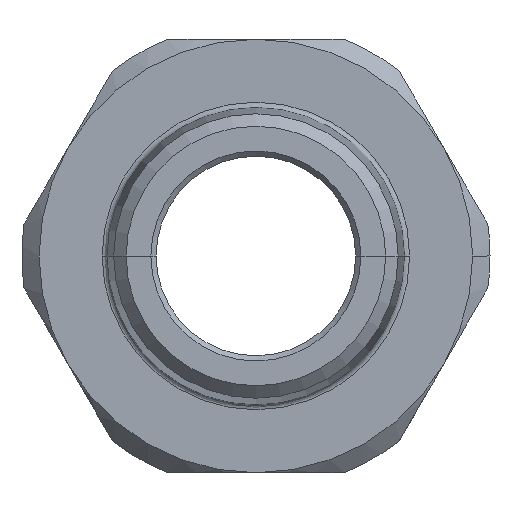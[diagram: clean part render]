
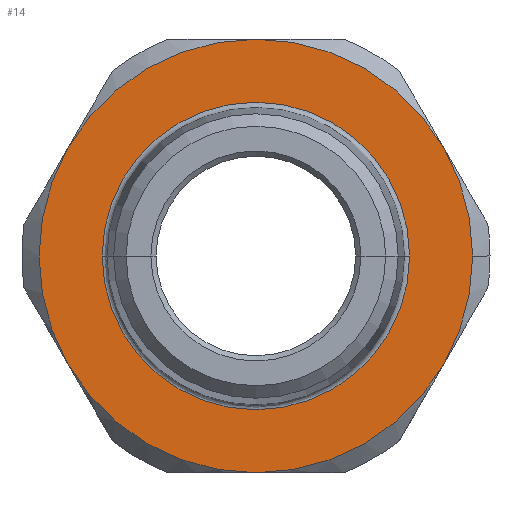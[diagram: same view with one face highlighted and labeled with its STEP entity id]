
A CAD part, left-side view. The second image highlights one B-rep face of the part: STEP entity #14.
In plain terms, the highlighted planar face has unit normal (-1, 0, 0).
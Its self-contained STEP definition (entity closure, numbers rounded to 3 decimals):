
#14=ADVANCED_FACE('',(#72,#70),#852,.T.);
#70=FACE_BOUND('',#129,.T.);
#72=FACE_OUTER_BOUND('',#128,.T.);
#128=EDGE_LOOP('',(#186,#187,#188,#189,#190,#191,#192));
#129=EDGE_LOOP('',(#193,#194));
#186=ORIENTED_EDGE('',*,*,#476,.T.);
#187=ORIENTED_EDGE('',*,*,#477,.T.);
#188=ORIENTED_EDGE('',*,*,#478,.T.);
#189=ORIENTED_EDGE('',*,*,#479,.T.);
#190=ORIENTED_EDGE('',*,*,#473,.T.);
#191=ORIENTED_EDGE('',*,*,#474,.T.);
#192=ORIENTED_EDGE('',*,*,#475,.T.);
#193=ORIENTED_EDGE('',*,*,#526,.T.);
#194=ORIENTED_EDGE('',*,*,#555,.T.);
#473=EDGE_CURVE('',#758,#759,#593,.T.);
#474=EDGE_CURVE('',#759,#760,#594,.T.);
#475=EDGE_CURVE('',#760,#761,#595,.T.);
#476=EDGE_CURVE('',#761,#762,#596,.T.);
#477=EDGE_CURVE('',#762,#763,#597,.T.);
#478=EDGE_CURVE('',#763,#764,#598,.T.);
#479=EDGE_CURVE('',#764,#758,#599,.T.);
#526=EDGE_CURVE('',#789,#806,#621,.T.);
#555=EDGE_CURVE('',#806,#789,#638,.T.);
#593=TRIMMED_CURVE($,#649,(#2025),(#2026),.T.,.CARTESIAN.);
#594=TRIMMED_CURVE($,#650,(#2028),(#2029),.T.,.CARTESIAN.);
#595=TRIMMED_CURVE($,#651,(#2031),(#2032),.T.,.CARTESIAN.);
#596=TRIMMED_CURVE($,#652,(#2034),(#2035),.T.,.CARTESIAN.);
#597=TRIMMED_CURVE($,#653,(#2037),(#2038),.T.,.CARTESIAN.);
#598=TRIMMED_CURVE($,#654,(#2040),(#2041),.T.,.CARTESIAN.);
#599=TRIMMED_CURVE($,#655,(#2043),(#2044),.T.,.CARTESIAN.);
#621=TRIMMED_CURVE($,#677,(#2237),(#2238),.T.,.CARTESIAN.);
#638=TRIMMED_CURVE($,#694,(#2326),(#2327),.T.,.CARTESIAN.);
#649=CIRCLE('',#982,12.5);
#650=CIRCLE('',#983,12.5);
#651=CIRCLE('',#984,12.5);
#652=CIRCLE('',#985,12.5);
#653=CIRCLE('',#986,12.5);
#654=CIRCLE('',#987,12.5);
#655=CIRCLE('',#988,12.5);
#677=CIRCLE('',#1010,8.865);
#694=CIRCLE('',#1027,8.865);
#758=VERTEX_POINT('',#1824);
#759=VERTEX_POINT('',#1825);
#760=VERTEX_POINT('',#1826);
#761=VERTEX_POINT('',#1827);
#762=VERTEX_POINT('',#1828);
#763=VERTEX_POINT('',#1829);
#764=VERTEX_POINT('',#1830);
#789=VERTEX_POINT('',#1855);
#806=VERTEX_POINT('',#1872);
#852=PLANE('',#952);
#952=AXIS2_PLACEMENT_3D('',#1170,#1033,$);
#982=AXIS2_PLACEMENT_3D($,#2024,#1071,#1072);
#983=AXIS2_PLACEMENT_3D($,#2027,#1073,#1074);
#984=AXIS2_PLACEMENT_3D($,#2030,#1075,#1076);
#985=AXIS2_PLACEMENT_3D($,#2033,#1077,#1078);
#986=AXIS2_PLACEMENT_3D($,#2036,#1079,#1080);
#987=AXIS2_PLACEMENT_3D($,#2039,#1081,#1082);
#988=AXIS2_PLACEMENT_3D($,#2042,#1083,#1084);
#1010=AXIS2_PLACEMENT_3D($,#2236,#1127,#1128);
#1027=AXIS2_PLACEMENT_3D($,#2325,#1161,#1162);
#1033=DIRECTION('',(-1.,0.,0.));
#1071=DIRECTION('',(-1.,0.,0.));
#1072=DIRECTION('',(0.,-1.,0.));
#1073=DIRECTION('',(-1.,0.,0.));
#1074=DIRECTION('',(0.,-0.866,0.5));
#1075=DIRECTION('',(-1.,0.,0.));
#1076=DIRECTION('',(0.,0.,1.));
#1077=DIRECTION('',(-1.,0.,0.));
#1078=DIRECTION('',(0.,0.866,0.5));
#1079=DIRECTION('',(-1.,0.,0.));
#1080=DIRECTION('',(0.,0.866,-0.5));
#1081=DIRECTION('',(-1.,0.,0.));
#1082=DIRECTION('',(0.,0.,-1.));
#1083=DIRECTION('',(-1.,0.,0.));
#1084=DIRECTION('',(0.,-0.866,-0.5));
#1127=DIRECTION('',(1.,0.,0.));
#1128=DIRECTION('',(0.,1.,0.));
#1161=DIRECTION('',(1.,0.,0.));
#1162=DIRECTION('',(0.,-1.,0.));
#1170=CARTESIAN_POINT('',(2972.117,1609.879,12.75));
#1824=CARTESIAN_POINT('',(2972.117,1611.278,0.));
#1825=CARTESIAN_POINT('',(2972.117,1612.952,6.25));
#1826=CARTESIAN_POINT('',(2972.117,1623.778,12.5));
#1827=CARTESIAN_POINT('',(2972.117,1634.603,6.25));
#1828=CARTESIAN_POINT('',(2972.117,1634.603,-6.25));
#1829=CARTESIAN_POINT('',(2972.117,1623.778,-12.5));
#1830=CARTESIAN_POINT('',(2972.117,1612.952,-6.25));
#1855=CARTESIAN_POINT('',(2972.117,1632.643,0.));
#1872=CARTESIAN_POINT('',(2972.117,1614.913,0.));
#2024=CARTESIAN_POINT('',(2972.117,1623.778,0.));
#2025=CARTESIAN_POINT('',(2972.117,1611.278,0.));
#2026=CARTESIAN_POINT('',(2972.117,1612.952,6.25));
#2027=CARTESIAN_POINT('',(2972.117,1623.778,0.));
#2028=CARTESIAN_POINT('',(2972.117,1612.952,6.25));
#2029=CARTESIAN_POINT('',(2972.117,1623.778,12.5));
#2030=CARTESIAN_POINT('',(2972.117,1623.778,0.));
#2031=CARTESIAN_POINT('',(2972.117,1623.778,12.5));
#2032=CARTESIAN_POINT('',(2972.117,1634.603,6.25));
#2033=CARTESIAN_POINT('',(2972.117,1623.778,0.));
#2034=CARTESIAN_POINT('',(2972.117,1634.603,6.25));
#2035=CARTESIAN_POINT('',(2972.117,1634.603,-6.25));
#2036=CARTESIAN_POINT('',(2972.117,1623.778,0.));
#2037=CARTESIAN_POINT('',(2972.117,1634.603,-6.25));
#2038=CARTESIAN_POINT('',(2972.117,1623.778,-12.5));
#2039=CARTESIAN_POINT('',(2972.117,1623.778,0.));
#2040=CARTESIAN_POINT('',(2972.117,1623.778,-12.5));
#2041=CARTESIAN_POINT('',(2972.117,1612.952,-6.25));
#2042=CARTESIAN_POINT('',(2972.117,1623.778,0.));
#2043=CARTESIAN_POINT('',(2972.117,1612.952,-6.25));
#2044=CARTESIAN_POINT('',(2972.117,1611.278,0.));
#2236=CARTESIAN_POINT('',(2972.117,1623.778,0.));
#2237=CARTESIAN_POINT('',(2972.117,1632.643,0.));
#2238=CARTESIAN_POINT('',(2972.117,1614.913,0.));
#2325=CARTESIAN_POINT('',(2972.117,1623.778,0.));
#2326=CARTESIAN_POINT('',(2972.117,1614.913,0.));
#2327=CARTESIAN_POINT('',(2972.117,1632.643,0.));
